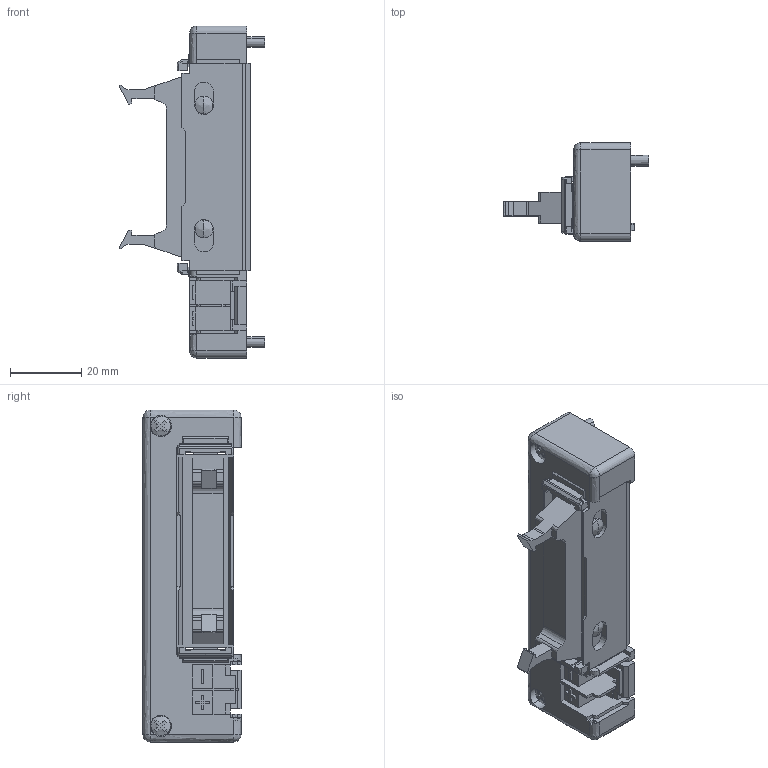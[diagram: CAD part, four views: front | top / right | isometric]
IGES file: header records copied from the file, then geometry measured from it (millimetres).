
Start section: ------------------------------------------------------------------------
Global section: file name: D:\ICADMX\tmp\trans3d_spg\CVICAD02.16560.FZX-F260-E_8899.igs; native system: spGate; preprocessor: ver12.6.6; author: Unknown; organization: Unknown; date: 200901.142608; units: millimetre
Bounding box: 40.7 x 27.5 x 93 mm (x, y, z)
Volume: 35226.8 mm3; surface area: 15058.4 mm2
Topology: 2 solids, 2 shells, 415 faces, 1206 edges, 778 vertices
Faces by surface type: bspline 415
